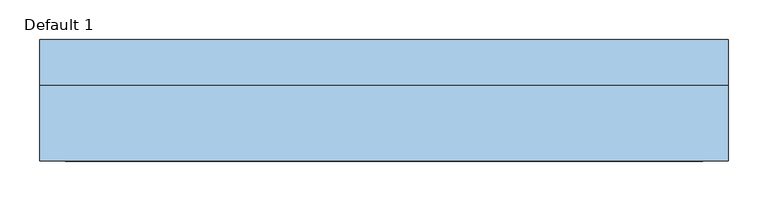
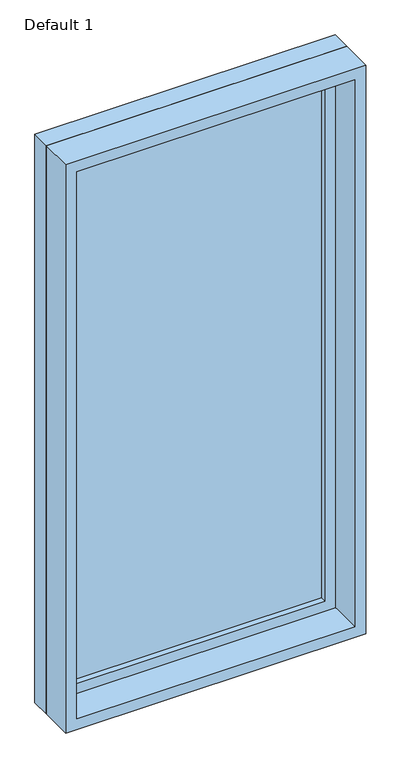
"""IFC4 building model written with IfcOpenShell, lengths in millimetres: window geometry, Planitar-Fixed : Default 1."""

from ifc_helpers import new_model, si_unit, frame, origin, place, context, project, spatial, polyline, outline, extrude, source, transform, mapped, element, save


def default_1_3f986f1e(model_context):
    return source(origin(), model_context, "Body", "SweptSolid", [
        extrude(outline(polyline([(2622.6, -412.8), (933.4, -412.8), (933.4, 412.8), (2622.6, 412.8), (2622.6, -412.8)]), holes=[polyline([(2578.6, -368.8), (2578.6, 368.8), (977.4, 368.8), (977.4, -368.8), (2578.6, -368.8)])]), frame((0.0, 32.5, 0.0), z_axis=(0.0, 1.0, 0.0), x_axis=(0.0, 0.0, 1.0)), (0.0, 0.0, 1.0), 44.0),
        extrude(outline(polyline([(2641.6, -431.8), (914.4, -431.8), (914.4, 431.8), (2641.6, 431.8), (2641.6, -431.8)]), holes=[polyline([(2622.6, -412.8), (2622.6, 412.8), (933.4, 412.8), (933.4, -412.8), (2622.6, -412.8)])]), frame((0.0, 32.5, 0.0), z_axis=(0.0, 1.0, 0.0), x_axis=(0.0, 0.0, 1.0)), (0.0, 0.0, 1.0), 56.7),
        extrude(outline(polyline([(2641.6, -431.8), (914.4, -431.8), (914.4, 431.8), (2641.6, 431.8), (2641.6, -431.8)]), holes=[polyline([(2609.6, -399.8), (2609.6, 399.8), (946.4, 399.8), (946.4, -399.8), (2609.6, -399.8)])]), frame((0.0, -63.2, 0.0), z_axis=(0.0, 1.0, 0.0), x_axis=(0.0, 0.0, 1.0)), (0.0, 0.0, 1.0), 95.7),
        extrude(outline(polyline([(-368.8, 60.5), (368.8, 60.5), (368.8, 48.5), (-368.8, 48.5), (-368.8, 60.5)])), frame((0.0, 0.0, 977.4), z_axis=(0.0, 0.0, 1.0), x_axis=(1.0, 0.0, 0.0)), (0.0, 0.0, 1.0), 1601.2),
    ])


if __name__ == "__main__":
    model = new_model("IFC4")
    model_context = context("Model", 3, world=origin())
    ifc_project = project(units=[si_unit("LENGTHUNIT", "METRE", prefix="MILLI")], contexts=[model_context])
    site = spatial("IfcSite", under=ifc_project)
    building = spatial("IfcBuilding", under=site)
    placement = place(None, origin())
    default_1_shape = default_1_3f986f1e(model_context)
    element("IfcWindow", 1, ObjectType="Planitar-Fixed : Default 1", at=placement, inside=building, context=model_context, shape_type="MappedRepresentation", body=[
        mapped(default_1_shape, transform((0.0, 0.0, 0.0), x_axis=(1.0, 0.0, 0.0), y_axis=(0.0, 1.0, 0.0), z_axis=(0.0, 0.0, 1.0))),
    ])
    save(model, "model.ifc")
